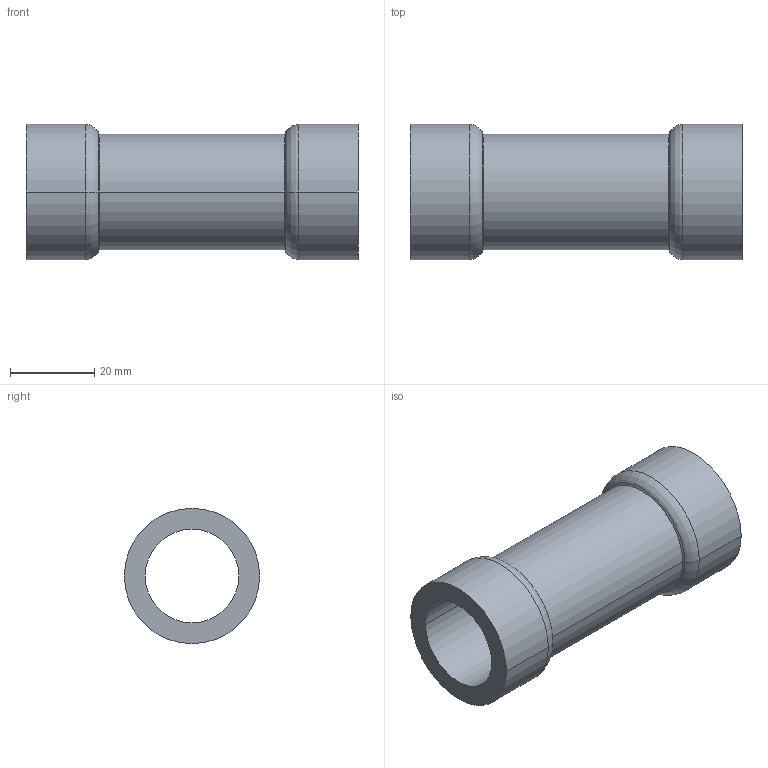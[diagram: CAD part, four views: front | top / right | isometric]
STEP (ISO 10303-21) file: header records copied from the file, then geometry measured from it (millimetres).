
FILE_DESCRIPTION(('Creo Elements/Direct Modeling STEP Export'),'2;1');
FILE_NAME('C9403_1-2.stp','2020-06-18T13:25:16',(''),(''),'PTC Creo Elements/Direct Modeling STEP processor for AP214 (Solid Model)','PTC Creo Elements/Direct Modeling 19.0C 15-Aug-2015 (C) Parametric Technology GmbH','');
FILE_SCHEMA(('AUTOMOTIVE_DESIGN { 1 0 10303 214 1 1 1 1 }'));
Length unit declared in the file: millimetre
Products named in the file (1): 9403_1-2
Bounding box: 78.8 x 32.1 x 32.1 mm (x, y, z)
Volume: 23374.3 mm3; surface area: 13804.7 mm2
Topology: 1 solids, 1 shells, 18 faces, 36 edges, 20 vertices
Faces by surface type: cylinder 8, cone 4, torus 4, plane 2
Entity records: 444 total; most frequent: DIRECTION 78, ORIENTED_EDGE 72, CARTESIAN_POINT 65, EDGE_CURVE 36, AXIS2_PLACEMENT_3D 33, VERTEX_POINT 20, EDGE_LOOP 20, FACE_OUTER_BOUND 18
